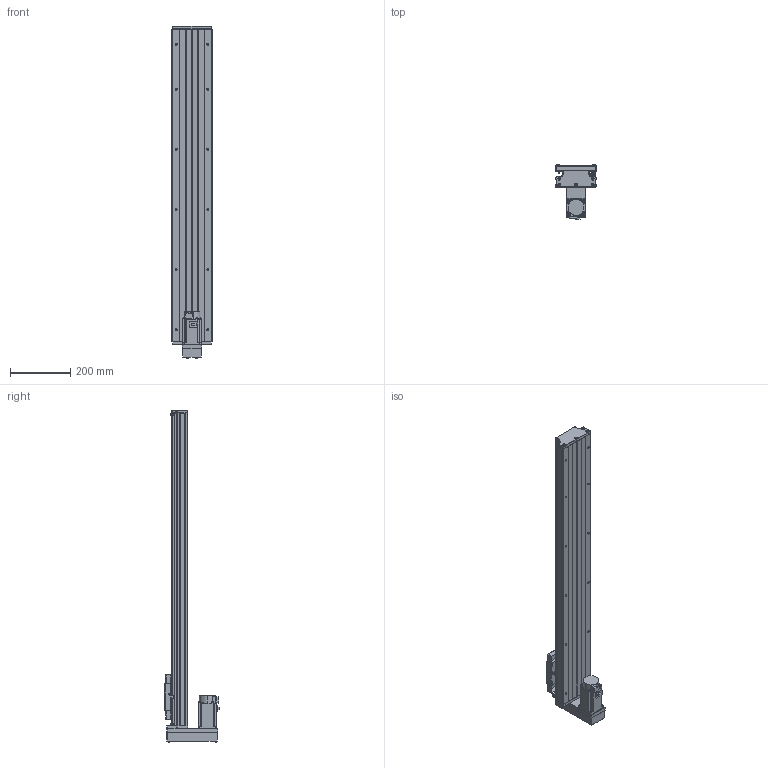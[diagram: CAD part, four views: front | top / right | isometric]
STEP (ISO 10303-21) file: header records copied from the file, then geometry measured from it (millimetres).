
FILE_DESCRIPTION (( 'STEP AP203' ), '1' );
FILE_NAME ('CTH130-850-BM-M40-C4.step', '2023-06-30T02:46:28', ( '微软用户' ), ( '微软中国' ), 'SwSTEP 2.0', 'SolidWorks 2020', '' );
FILE_SCHEMA (( 'CONFIG_CONTROL_DESIGN' ));
Length unit declared in the file: millimetre
Products named in the file (20): GTH14-005; GBT77-2000 M3×3; GTH14-033; GB1155-6X6; CTH130-031; GBT70.1 M5℅16; GBT 70.2-M3¡Á5_M3¡Á6; GTH14-001_850; CTHA60-017; す晦芛蹟隊 M3℅5; CTH130-002_GTH14-002; EE_SX911P_R; HG-KN43J-S100; GB T308.1-2013-6.35; CTH130-850-BM-M40-C4; CTHA60-016; GBT 70.2-M4¡Á35_M4¡Á35; GTH14-004; GBT 70.1-M3℅5; GTH14-015-2_CTHA86-015-2
Assembly tree (60 placements, depth 2):
  CTH130-850-BM-M40-C4
    GTH14-001_850
    CTH130-002_GTH14-002
    GB T308.1-2013-6.35  x2
    GTH14-004
    GTH14-005
    GB1155-6X6  x2
    GBT70.1 M5℅16  x10
    CTHA60-017  x3
    EE_SX911P_R  x3
    CTHA60-016  x2
    GBT 70.1-M3℅5  x6
    GBT77-2000 M3×3  x6
    CTH130-031
    GBT 70.2-M3¡Á5_M3¡Á6  x8
    す晦芛蹟隊 M3℅5  x6
    HG-KN43J-S100
    GBT 70.2-M4¡Á35_M4¡Á35  x4
    GTH14-015-2_CTHA86-015-2
    GTH14-033
Bounding box: 135 x 179.8 x 1104.2 mm (x, y, z)
Volume: 5829288.3 mm3; surface area: 956978 mm2
Topology: 63 solids, 63 shells, 2445 faces, 5821 edges, 3601 vertices
Faces by surface type: plane 1312, cylinder 654, cone 299, torus 124, sphere 36, bspline 20
Entity records: 44232 total; most frequent: CARTESIAN_POINT 9897, DIRECTION 6462, ORIENTED_EDGE 6348, EDGE_CURVE 3174, AXIS2_PLACEMENT_3D 2210, VECTOR 2042, LINE 2042, VERTEX_POINT 2011
